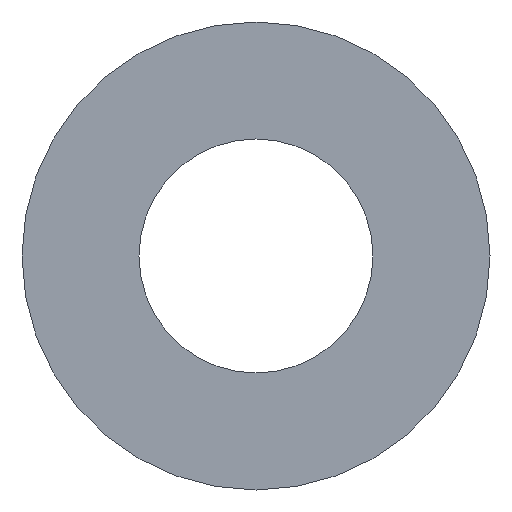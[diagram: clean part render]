
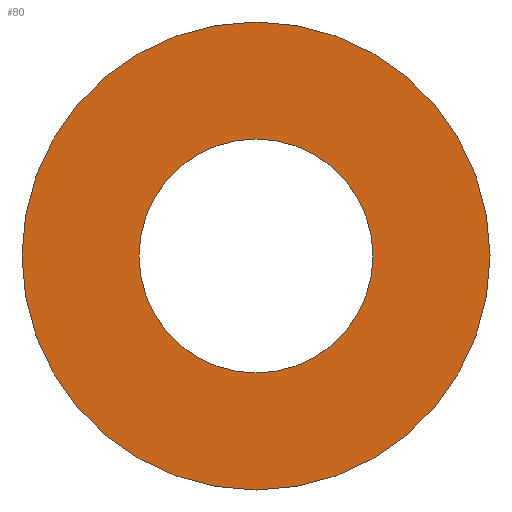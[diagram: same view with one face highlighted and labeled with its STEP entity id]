
A CAD part, left-side view. The second image highlights one B-rep face of the part: STEP entity #80.
In plain terms, the highlighted planar face has unit normal (-1, 0, 0).
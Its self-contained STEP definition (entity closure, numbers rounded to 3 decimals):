
#23=ORIENTED_EDGE('',*,*,#35,.F.);
#24=ORIENTED_EDGE('',*,*,#36,.T.);
#35=EDGE_CURVE('',#41,#41,#47,.T.);
#36=EDGE_CURVE('',#42,#42,#48,.T.);
#41=VERTEX_POINT('',#140);
#42=VERTEX_POINT('',#142);
#47=CIRCLE('',#100,5.);
#48=CIRCLE('',#101,2.5);
#53=EDGE_LOOP('',(#23));
#54=EDGE_LOOP('',(#24));
#65=FACE_BOUND('',#53,.T.);
#66=FACE_BOUND('',#54,.T.);
#77=PLANE('',#99);
#80=ADVANCED_FACE('',(#65,#66),#77,.F.);
#99=AXIS2_PLACEMENT_3D('',#138,#113,#114);
#100=AXIS2_PLACEMENT_3D('',#139,#115,#116);
#101=AXIS2_PLACEMENT_3D('',#141,#117,#118);
#113=DIRECTION('',(1.,0.,0.));
#114=DIRECTION('',(0.,0.,-1.));
#115=DIRECTION('',(1.,0.,0.));
#116=DIRECTION('',(0.,0.,-1.));
#117=DIRECTION('',(1.,0.,0.));
#118=DIRECTION('',(0.,0.,-1.));
#138=CARTESIAN_POINT('',(0.,0.,0.));
#139=CARTESIAN_POINT('',(0.,0.,0.));
#140=CARTESIAN_POINT('',(0.,0.,-5.));
#141=CARTESIAN_POINT('',(0.,0.,0.));
#142=CARTESIAN_POINT('',(0.,0.,-2.5));
